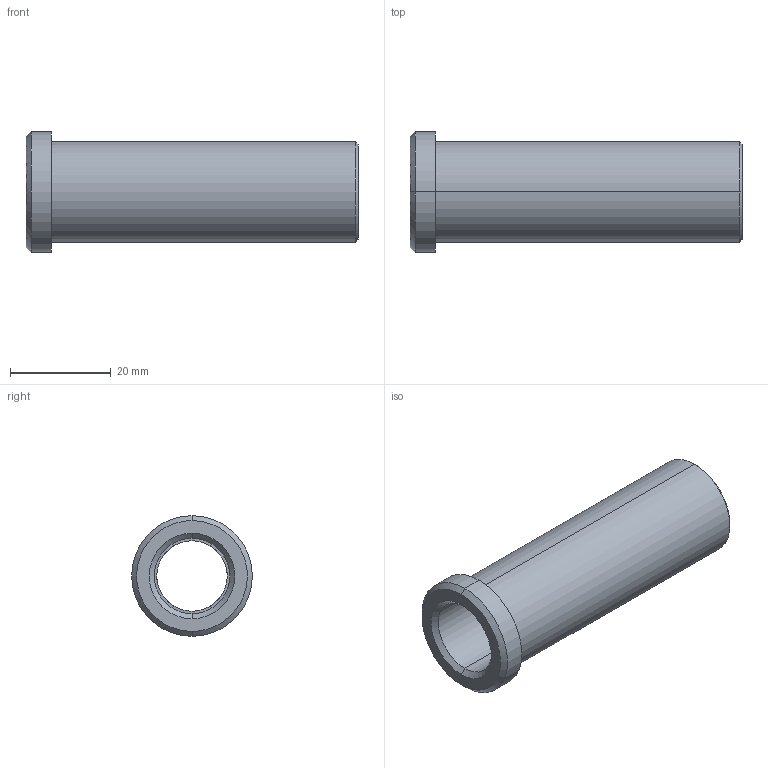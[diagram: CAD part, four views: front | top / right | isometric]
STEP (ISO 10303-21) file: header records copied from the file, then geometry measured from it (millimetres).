
FILE_DESCRIPTION(('CATIA V5 STEP Exchange'),'2;1');
FILE_NAME('C:\Users\Utente\Desktop\IO LAVORO\3D X SITO CF\X SITO\PLASTICA\353\353-14X66.stp','2021-04-21T12:23:58+00:00',('none'),('none'),'CATIA Version 5 Release 20 GA (IN-10)','CATIA V5 STEP AP203','none');
FILE_SCHEMA(('CONFIG_CONTROL_DESIGN'));
Length unit declared in the file: millimetre
Products named in the file (1): 353-14X66
Bounding box: 66 x 24 x 24 mm (x, y, z)
Volume: 10321.5 mm3; surface area: 7719.9 mm2
Topology: 1 solids, 1 shells, 20 faces, 64 edges, 48 vertices
Faces by surface type: cylinder 8, cone 6, plane 4, torus 2
Entity records: 906 total; most frequent: CARTESIAN_POINT 301, ORIENTED_EDGE 128, DIRECTION 92, EDGE_CURVE 64, AXIS2_PLACEMENT_3D 59, VERTEX_POINT 48, CIRCLE 38, EDGE_LOOP 24
